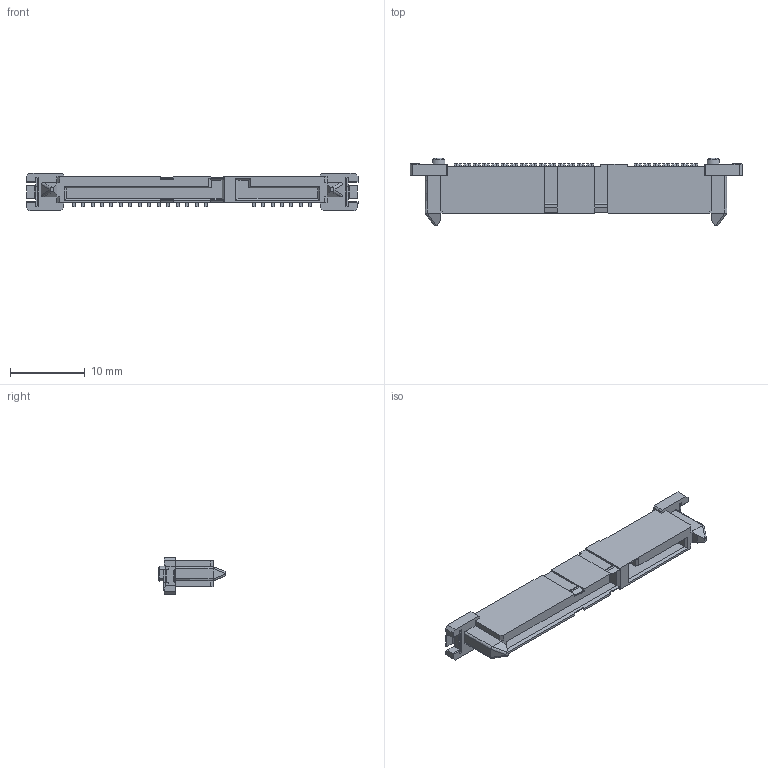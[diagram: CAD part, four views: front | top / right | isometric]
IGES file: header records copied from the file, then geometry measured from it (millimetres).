
Start section: SolidWorks IGES file using analytic representation for surfaces
Global section: file name: N:\Kamikawa_Hisako\★三次元モデル作成依頼\5650\24_5650_022_001_872_+.IGS; native system: SolidWorks 2021; preprocessor: SolidWorks 2021; author: HISAKO.KAMIKAWA.FJ; date: 220411.154057; units: millimetre
Bounding box: 44.5 x 9.05 x 5 mm (x, y, z)
Surface area: 1415.6 mm2 (no closed solid volume)
Topology: 0 solids, 0 shells, 675 faces, 4082 edges, 4082 vertices
Faces by surface type: bspline 675
